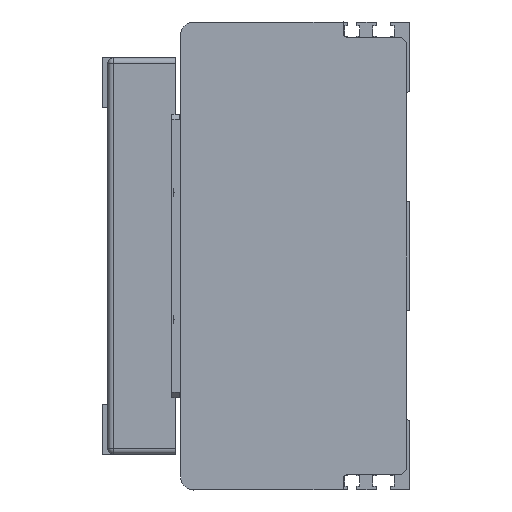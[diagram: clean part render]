
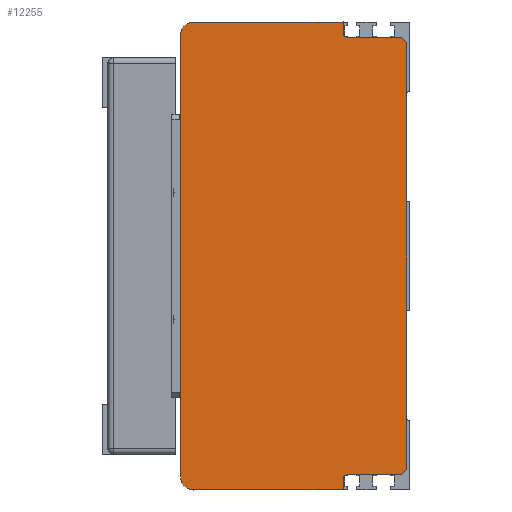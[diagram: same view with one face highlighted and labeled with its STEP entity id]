
A CAD part, left-side view. The second image highlights one B-rep face of the part: STEP entity #12255.
In plain terms, the highlighted planar face has unit normal (-1, 0, 0) as drawn and (0, 0, -1) by its records, which use the part's own axes.
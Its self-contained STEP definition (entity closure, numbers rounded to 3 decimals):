
#897=CIRCLE('',#13074,2.);
#898=CIRCLE('',#13075,5.);
#899=CIRCLE('',#13076,5.);
#900=CIRCLE('',#13077,2.);
#1188=FACE_OUTER_BOUND('',#1926,.T.);
#1926=EDGE_LOOP('',(#8290,#8291,#8292,#8293,#8294,#8295,#8296,#8297,#8298,
#8299,#8300,#8301,#8302,#8303));
#2805=LINE('',#17161,#3977);
#2806=LINE('',#17163,#3978);
#2807=LINE('',#17167,#3979);
#2808=LINE('',#17169,#3980);
#2809=LINE('',#17173,#3981);
#2810=LINE('',#17177,#3982);
#2811=LINE('',#17179,#3983);
#2812=LINE('',#17183,#3984);
#2813=LINE('',#17185,#3985);
#2814=LINE('',#17186,#3986);
#3977=VECTOR('',#14123,2.828);
#3978=VECTOR('',#14124,20.5);
#3979=VECTOR('',#14127,4.);
#3980=VECTOR('',#14128,57.5);
#3981=VECTOR('',#14131,170.);
#3982=VECTOR('',#14134,57.5);
#3983=VECTOR('',#14135,4.);
#3984=VECTOR('',#14138,20.5);
#3985=VECTOR('',#14139,2.828);
#3986=VECTOR('',#14140,164.);
#5165=VERTEX_POINT('',#17159);
#5166=VERTEX_POINT('',#17160);
#5167=VERTEX_POINT('',#17162);
#5168=VERTEX_POINT('',#17164);
#5169=VERTEX_POINT('',#17166);
#5170=VERTEX_POINT('',#17168);
#5171=VERTEX_POINT('',#17170);
#5172=VERTEX_POINT('',#17172);
#5173=VERTEX_POINT('',#17174);
#5174=VERTEX_POINT('',#17176);
#5175=VERTEX_POINT('',#17178);
#5176=VERTEX_POINT('',#17180);
#5177=VERTEX_POINT('',#17182);
#5178=VERTEX_POINT('',#17184);
#6418=EDGE_CURVE('',#5165,#5166,#2805,.T.);
#6419=EDGE_CURVE('',#5165,#5167,#2806,.T.);
#6420=EDGE_CURVE('',#5168,#5167,#897,.T.);
#6421=EDGE_CURVE('',#5168,#5169,#2807,.T.);
#6422=EDGE_CURVE('',#5169,#5170,#2808,.T.);
#6423=EDGE_CURVE('',#5170,#5171,#898,.T.);
#6424=EDGE_CURVE('',#5171,#5172,#2809,.T.);
#6425=EDGE_CURVE('',#5172,#5173,#899,.T.);
#6426=EDGE_CURVE('',#5173,#5174,#2810,.T.);
#6427=EDGE_CURVE('',#5174,#5175,#2811,.T.);
#6428=EDGE_CURVE('',#5176,#5175,#900,.T.);
#6429=EDGE_CURVE('',#5176,#5177,#2812,.T.);
#6430=EDGE_CURVE('',#5178,#5177,#2813,.T.);
#6431=EDGE_CURVE('',#5178,#5166,#2814,.T.);
#8290=ORIENTED_EDGE('',*,*,#6418,.F.);
#8291=ORIENTED_EDGE('',*,*,#6419,.T.);
#8292=ORIENTED_EDGE('',*,*,#6420,.F.);
#8293=ORIENTED_EDGE('',*,*,#6421,.T.);
#8294=ORIENTED_EDGE('',*,*,#6422,.T.);
#8295=ORIENTED_EDGE('',*,*,#6423,.T.);
#8296=ORIENTED_EDGE('',*,*,#6424,.T.);
#8297=ORIENTED_EDGE('',*,*,#6425,.T.);
#8298=ORIENTED_EDGE('',*,*,#6426,.T.);
#8299=ORIENTED_EDGE('',*,*,#6427,.T.);
#8300=ORIENTED_EDGE('',*,*,#6428,.F.);
#8301=ORIENTED_EDGE('',*,*,#6429,.T.);
#8302=ORIENTED_EDGE('',*,*,#6430,.F.);
#8303=ORIENTED_EDGE('',*,*,#6431,.T.);
#11826=PLANE('',#13073);
#12255=ADVANCED_FACE('',(#1188),#11826,.T.);
#13073=AXIS2_PLACEMENT_3D('',#17158,#14121,#14122);
#13074=AXIS2_PLACEMENT_3D('',#17165,#14125,#14126);
#13075=AXIS2_PLACEMENT_3D('',#17171,#14129,#14130);
#13076=AXIS2_PLACEMENT_3D('',#17175,#14132,#14133);
#13077=AXIS2_PLACEMENT_3D('',#17181,#14136,#14137);
#14121=DIRECTION('center_axis',(0.,0.,
-1.));
#14122=DIRECTION('ref_axis',(0.,-1.,0.));
#14123=DIRECTION('',(0.707,-0.707,0.));
#14124=DIRECTION('',(0.,1.,0.));
#14125=DIRECTION('center_axis',(0.,0.,
-1.));
#14126=DIRECTION('ref_axis',(0.707,0.707,0.));
#14127=DIRECTION('',(-1.,0.,0.));
#14128=DIRECTION('',(0.,1.,0.));
#14129=DIRECTION('center_axis',(0.,0.,
-1.));
#14130=DIRECTION('ref_axis',(-1.,0.,0.));
#14131=DIRECTION('',(1.,0.,0.));
#14132=DIRECTION('center_axis',(0.,0.,
-1.));
#14133=DIRECTION('ref_axis',(0.,1.,0.));
#14134=DIRECTION('',(0.,-1.,0.));
#14135=DIRECTION('',(-1.,0.,0.));
#14136=DIRECTION('center_axis',(0.,0.,
-1.));
#14137=DIRECTION('ref_axis',(-0.707,0.707,0.));
#14138=DIRECTION('',(0.,-1.,0.));
#14139=DIRECTION('',(0.707,0.707,0.));
#14140=DIRECTION('',(-1.,0.,0.));
#17158=CARTESIAN_POINT('Origin',(317.669,46.746,-306.483));
#17159=CARTESIAN_POINT('',(-91.,-80.,-306.483));
#17160=CARTESIAN_POINT('',(-89.,-82.,-306.483));
#17161=CARTESIAN_POINT('',(-20.019,-150.981,-306.483));
#17162=CARTESIAN_POINT('',(-91.,-59.5,-306.483));
#17163=CARTESIAN_POINT('',(-91.,-17.627,-306.483));
#17164=CARTESIAN_POINT('',(-93.,-57.5,-306.483));
#17165=CARTESIAN_POINT('Origin',(-93.,-59.5,-306.483));
#17166=CARTESIAN_POINT('',(-97.,-57.5,-306.483));
#17167=CARTESIAN_POINT('',(-91.,-57.5,-306.483));
#17168=CARTESIAN_POINT('',(-97.,0.,-306.483));
#17169=CARTESIAN_POINT('',(-97.,-57.5,-306.483));
#17170=CARTESIAN_POINT('',(-92.,5.,-306.483));
#17171=CARTESIAN_POINT('Origin',(-92.,0.,
-306.483));
#17172=CARTESIAN_POINT('',(78.,5.,-306.483));
#17173=CARTESIAN_POINT('',(-92.,5.,-306.483));
#17174=CARTESIAN_POINT('',(83.,0.,-306.483));
#17175=CARTESIAN_POINT('Origin',(78.,0.,
-306.483));
#17176=CARTESIAN_POINT('',(83.,-57.5,-306.483));
#17177=CARTESIAN_POINT('',(83.,0.,-306.483));
#17178=CARTESIAN_POINT('',(79.,-57.5,-306.483));
#17179=CARTESIAN_POINT('',(83.,-57.5,-306.483));
#17180=CARTESIAN_POINT('',(77.,-59.5,-306.483));
#17181=CARTESIAN_POINT('Origin',(79.,-59.5,-306.483));
#17182=CARTESIAN_POINT('',(77.,-80.,-306.483));
#17183=CARTESIAN_POINT('',(77.,-57.5,-306.483));
#17184=CARTESIAN_POINT('',(75.,-82.,-306.483));
#17185=CARTESIAN_POINT('',(168.354,11.354,-306.483));
#17186=CARTESIAN_POINT('',(81.,-82.,-306.483));
